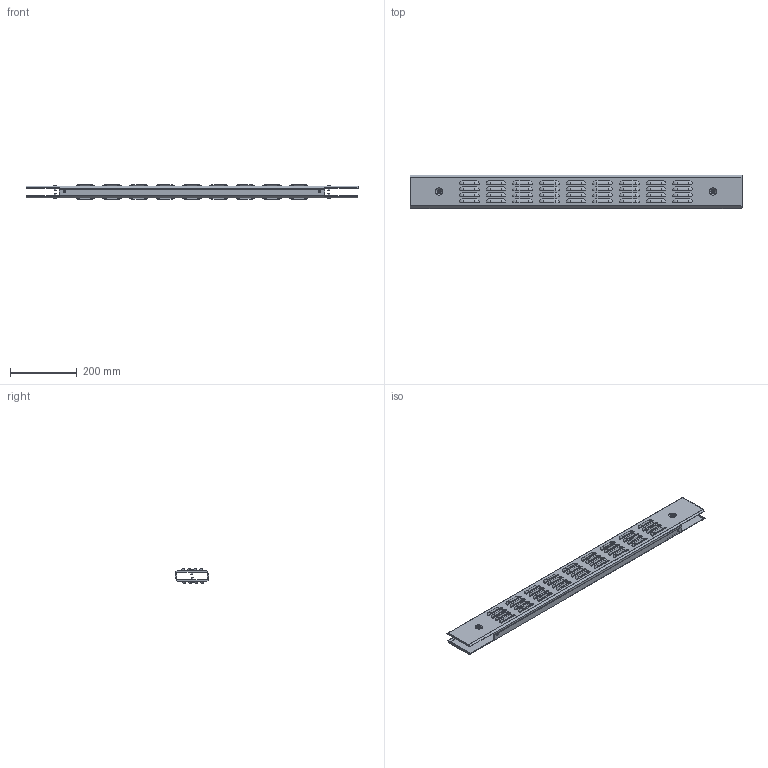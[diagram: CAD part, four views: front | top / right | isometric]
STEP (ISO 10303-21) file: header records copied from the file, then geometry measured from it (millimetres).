
FILE_DESCRIPTION (( 'STEP AP214' ), '1' );
FILE_NAME ('FO-00D-PCV-010-100-7021 Ïàíåëü öîêîëÿ âåíòèëèðóåìàÿ 100õ1000 ìì RAL7021 (2 øò.êîìïë.).STEP', '2025-08-21T13:18:17', ( '' ), ( '' ), 'SwSTEP 2.0', 'SolidWorks 2023', '' );
FILE_SCHEMA (( 'AUTOMOTIVE_DESIGN' ));
Length unit declared in the file: millimetre
Products named in the file (2): FO-00D-PCV-010-100-7021 Панель цоколя вентилируемая 100х1000 мм RAL7021 (2 шт.компл.); Панель цоколя вентилируемая 100х1000 мм
Assembly tree (2 placements, depth 2):
  FO-00D-PCV-010-100-7021 Панель цоколя вентилируемая 100х1000 мм RAL7021 (2 шт.компл.)
    Панель цоколя вентилируемая 100х1000 мм  x2
Bounding box: 995 x 100.74 x 44.94 mm (x, y, z)
Volume: 375223.4 mm3; surface area: 552751.7 mm2
Topology: 2 solids, 2 shells, 1168 faces, 3100 edges, 1960 vertices
Faces by surface type: plane 452, cylinder 388, torus 296, cone 32
Entity records: 18589 total; most frequent: DIRECTION 3580, CARTESIAN_POINT 3119, ORIENTED_EDGE 3100, EDGE_CURVE 1550, AXIS2_PLACEMENT_3D 1441, VERTEX_POINT 980, CIRCLE 852, VECTOR 698
